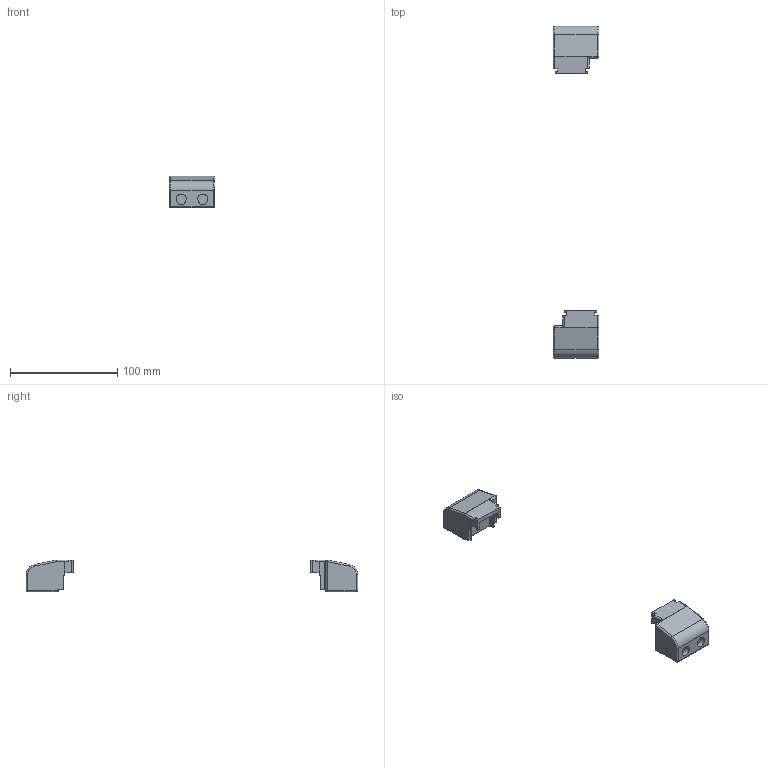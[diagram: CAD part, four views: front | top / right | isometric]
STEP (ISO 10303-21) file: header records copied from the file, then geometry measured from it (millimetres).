
FILE_DESCRIPTION((''),'2;1');
FILE_NAME('DEWI_SR-STD_DMEC_ASSY_250','2015-12-16T',('emanuel.wild'),(''),'PRO/ENGINEER BY PARAMETRIC TECHNOLOGY CORPORATION, 2015200','PRO/ENGINEER BY PARAMETRIC TECHNOLOGY CORPORATION, 2015200','');
FILE_SCHEMA(('AUTOMOTIVE_DESIGN { 1 0 10303 214 1 1 1 1 }'));
Length unit declared in the file: millimetre
Products named in the file (2): DEWI_SR-STD_DMEC; DEWI_SR-STD_DMEC_ASSY_250
Assembly tree (2 placements, depth 2):
  DEWI_SR-STD_DMEC_ASSY_250
    DEWI_SR-STD_DMEC  x2
Bounding box: 42.8 x 310 x 29.8 mm (x, y, z)
Volume: 66408.4 mm3; surface area: 18943.6 mm2
Topology: 2 solids, 2 shells, 196 faces, 504 edges, 316 vertices
Faces by surface type: plane 112, cylinder 58, bspline 12, sphere 8, torus 6
Entity records: 3847 total; most frequent: CARTESIAN_POINT 770, DIRECTION 504, ORIENTED_EDGE 504, EDGE_CURVE 252, VECTOR 180, LINE 180, AXIS2_PLACEMENT_3D 162, VERTEX_POINT 158
